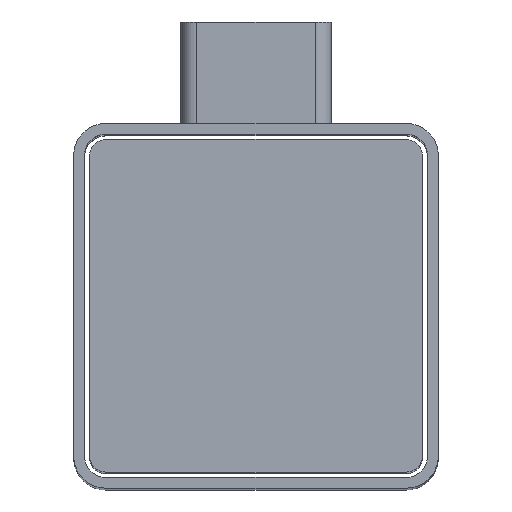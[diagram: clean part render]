
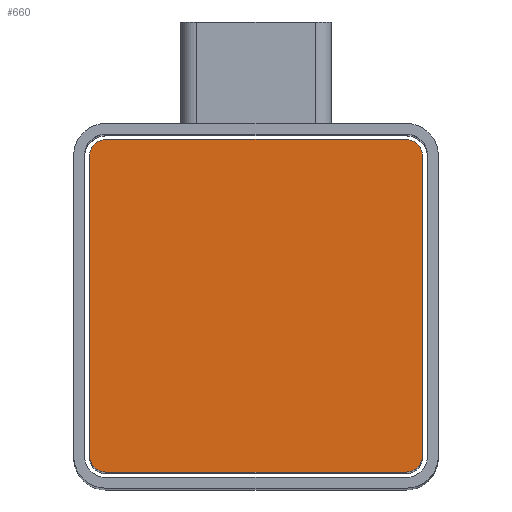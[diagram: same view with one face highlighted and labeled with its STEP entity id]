
A CAD part, top view. The second image highlights one B-rep face of the part: STEP entity #660.
In plain terms, the highlighted planar face has unit normal (0, 0, 1).
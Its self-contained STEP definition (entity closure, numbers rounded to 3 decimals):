
#68 = PLANE ( 'NONE',  #3564 ) ;
#94 = LINE ( 'NONE', #2425, #4330 ) ;
#276 = CARTESIAN_POINT ( 'NONE',  ( 14., 15.5, 49.6 ) ) ;
#378 = ORIENTED_EDGE ( 'NONE', *, *, #3085, .T. ) ;
#606 = EDGE_CURVE ( 'NONE', #4519, #1779, #915, .T. ) ;
#660 = ADVANCED_FACE ( 'NONE', ( #1893 ), #68, .T. ) ;
#715 = EDGE_CURVE ( 'NONE', #2184, #1919, #1364, .T. ) ;
#725 = DIRECTION ( 'NONE',  ( 0., 0., 1. ) ) ;
#734 = CARTESIAN_POINT ( 'NONE',  ( -15.5, 14., 49.6 ) ) ;
#785 = DIRECTION ( 'NONE',  ( 0., 0., 1. ) ) ;
#787 = CARTESIAN_POINT ( 'NONE',  ( 14., 15.5, 49.6 ) ) ;
#862 = DIRECTION ( 'NONE',  ( 0., 0., 1. ) ) ;
#908 = VECTOR ( 'NONE', #4672, 1000. ) ;
#915 = CIRCLE ( 'NONE', #1453, 1.5 ) ;
#925 = EDGE_LOOP ( 'NONE', ( #3715, #4812, #1434, #4210, #2082, #378, #3818, #4623 ) ) ;
#1078 = CIRCLE ( 'NONE', #2160, 1.5 ) ;
#1193 = VERTEX_POINT ( 'NONE', #3999 ) ;
#1362 = EDGE_CURVE ( 'NONE', #1919, #4519, #4760, .T. ) ;
#1364 = CIRCLE ( 'NONE', #2696, 1.5 ) ;
#1397 = EDGE_CURVE ( 'NONE', #2555, #2184, #1771, .T. ) ;
#1434 = ORIENTED_EDGE ( 'NONE', *, *, #606, .T. ) ;
#1453 = AXIS2_PLACEMENT_3D ( 'NONE', #3271, #3693, #2897 ) ;
#1542 = CARTESIAN_POINT ( 'NONE',  ( 14., 14., 49.6 ) ) ;
#1771 = LINE ( 'NONE', #4488, #4147 ) ;
#1779 = VERTEX_POINT ( 'NONE', #734 ) ;
#1877 = CARTESIAN_POINT ( 'NONE',  ( 15.5, 14., 49.6 ) ) ;
#1893 = FACE_OUTER_BOUND ( 'NONE', #925, .T. ) ;
#1919 = VERTEX_POINT ( 'NONE', #787 ) ;
#1942 = DIRECTION ( 'NONE',  ( 1., 0., 0. ) ) ;
#1985 = CARTESIAN_POINT ( 'NONE',  ( -14., -15.5, 49.6 ) ) ;
#2082 = ORIENTED_EDGE ( 'NONE', *, *, #2469, .T. ) ;
#2114 = DIRECTION ( 'NONE',  ( -1., 0., 0. ) ) ;
#2160 = AXIS2_PLACEMENT_3D ( 'NONE', #4595, #862, #2334 ) ;
#2184 = VERTEX_POINT ( 'NONE', #1877 ) ;
#2296 = CARTESIAN_POINT ( 'NONE',  ( -15.5, -14., 49.6 ) ) ;
#2334 = DIRECTION ( 'NONE',  ( 1., 0., 0. ) ) ;
#2380 = DIRECTION ( 'NONE',  ( 0., 0., 1. ) ) ;
#2425 = CARTESIAN_POINT ( 'NONE',  ( -15.5, 14., 49.6 ) ) ;
#2469 = EDGE_CURVE ( 'NONE', #3228, #3932, #1078, .T. ) ;
#2505 = DIRECTION ( 'NONE',  ( 0., 1., 0. ) ) ;
#2555 = VERTEX_POINT ( 'NONE', #4664 ) ;
#2576 = AXIS2_PLACEMENT_3D ( 'NONE', #3007, #725, #2633 ) ;
#2633 = DIRECTION ( 'NONE',  ( 1., 0., 0. ) ) ;
#2696 = AXIS2_PLACEMENT_3D ( 'NONE', #3239, #2380, #3135 ) ;
#2720 = CARTESIAN_POINT ( 'NONE',  ( -14., -15.5, 49.6 ) ) ;
#2897 = DIRECTION ( 'NONE',  ( 1., 0., 0. ) ) ;
#3007 = CARTESIAN_POINT ( 'NONE',  ( 14., -14., 49.6 ) ) ;
#3085 = EDGE_CURVE ( 'NONE', #3932, #1193, #3903, .T. ) ;
#3135 = DIRECTION ( 'NONE',  ( 1., 0., 0. ) ) ;
#3228 = VERTEX_POINT ( 'NONE', #2296 ) ;
#3239 = CARTESIAN_POINT ( 'NONE',  ( 14., 14., 49.6 ) ) ;
#3257 = EDGE_CURVE ( 'NONE', #1193, #2555, #4176, .T. ) ;
#3271 = CARTESIAN_POINT ( 'NONE',  ( -14., 14., 49.6 ) ) ;
#3564 = AXIS2_PLACEMENT_3D ( 'NONE', #1542, #785, #1942 ) ;
#3661 = EDGE_CURVE ( 'NONE', #1779, #3228, #94, .T. ) ;
#3693 = DIRECTION ( 'NONE',  ( 0., 0., 1. ) ) ;
#3715 = ORIENTED_EDGE ( 'NONE', *, *, #715, .T. ) ;
#3818 = ORIENTED_EDGE ( 'NONE', *, *, #3257, .T. ) ;
#3827 = VECTOR ( 'NONE', #2114, 1000. ) ;
#3867 = DIRECTION ( 'NONE',  ( 0., -1., 0. ) ) ;
#3895 = CARTESIAN_POINT ( 'NONE',  ( -14., 15.5, 49.6 ) ) ;
#3903 = LINE ( 'NONE', #1985, #908 ) ;
#3932 = VERTEX_POINT ( 'NONE', #2720 ) ;
#3999 = CARTESIAN_POINT ( 'NONE',  ( 14., -15.5, 49.6 ) ) ;
#4147 = VECTOR ( 'NONE', #2505, 1000. ) ;
#4176 = CIRCLE ( 'NONE', #2576, 1.5 ) ;
#4210 = ORIENTED_EDGE ( 'NONE', *, *, #3661, .T. ) ;
#4330 = VECTOR ( 'NONE', #3867, 1000. ) ;
#4488 = CARTESIAN_POINT ( 'NONE',  ( 15.5, -14., 49.6 ) ) ;
#4519 = VERTEX_POINT ( 'NONE', #3895 ) ;
#4595 = CARTESIAN_POINT ( 'NONE',  ( -14., -14., 49.6 ) ) ;
#4623 = ORIENTED_EDGE ( 'NONE', *, *, #1397, .T. ) ;
#4664 = CARTESIAN_POINT ( 'NONE',  ( 15.5, -14., 49.6 ) ) ;
#4672 = DIRECTION ( 'NONE',  ( 1., 0., 0. ) ) ;
#4760 = LINE ( 'NONE', #276, #3827 ) ;
#4812 = ORIENTED_EDGE ( 'NONE', *, *, #1362, .T. ) ;
